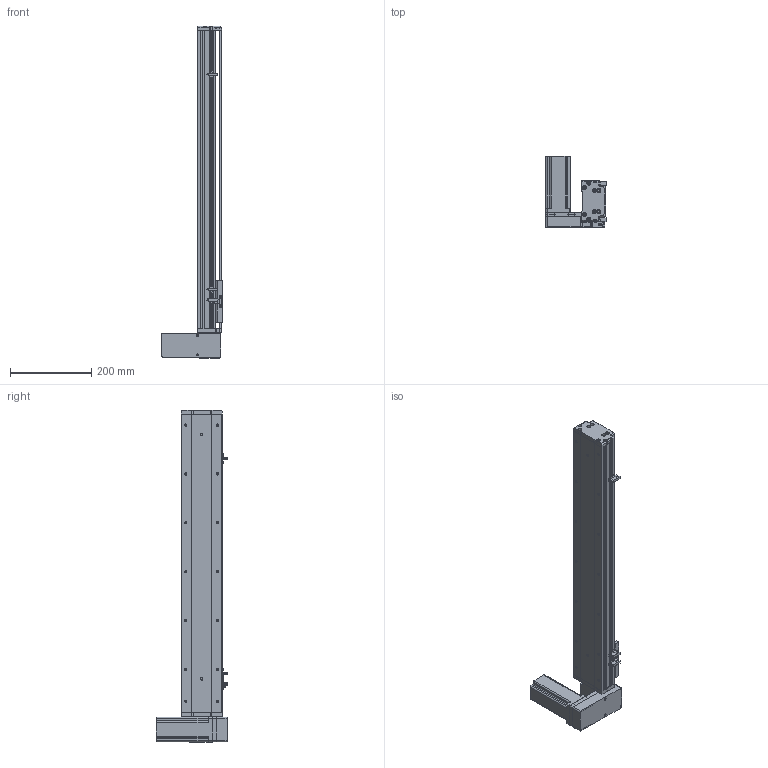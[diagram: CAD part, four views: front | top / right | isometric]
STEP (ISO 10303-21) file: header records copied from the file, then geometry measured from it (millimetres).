
FILE_DESCRIPTION (( 'STEP AP214' ), '1' );
FILE_NAME ('KSD100B-S550-MRD-CM.STEP', '2019-11-11T07:46:34', ( '微软用户' ), ( '微软中国' ), 'SwSTEP 2.0', 'SolidWorks 2014', '' );
FILE_SCHEMA (( 'AUTOMOTIVE_DESIGN' ));
Length unit declared in the file: millimetre
Products named in the file (12): 悵誘欶奻狟殏; 100宽马达安装板连板上下折丝杆同步带; 台达ECMA－C20604AS伺服电机; U倰嫖萇EEㄜSX672; 覜茼え100遵圉猾敕; 100宽防尘板550行程-同步带; 100宽马达安装板同步带右; 100宽同步带安装板半封闭; 100宽马达安装板同步带; 100遵傷啣肮祭湍; 100宽底板半封闭同步带550行程; KSD100B-S550-MRD-CM
Assembly tree (13 placements, depth 2):
  KSD100B-S550-MRD-CM
    100宽底板半封闭同步带550行程
    100遵傷啣肮祭湍
    100宽马达安装板同步带
    100宽同步带安装板半封闭
    100宽马达安装板同步带右
    100宽防尘板550行程-同步带
    覜茼え100遵圉猾敕
    U倰嫖萇EEㄜSX672  x3
    台达ECMA－C20604AS伺服电机
    100宽马达安装板连板上下折丝杆同步带
    悵誘欶奻狟殏
Bounding box: 148 x 174.7 x 815 mm (x, y, z)
Volume: 2100875.8 mm3; surface area: 671827.7 mm2
Topology: 14 solids, 14 shells, 1351 faces, 3786 edges, 2427 vertices
Faces by surface type: cylinder 665, plane 579, cone 107
Entity records: 47119 total; most frequent: CARTESIAN_POINT 8866, DIRECTION 6530, ORIENTED_EDGE 6264, EDGE_CURVE 3132, AXIS2_PLACEMENT_3D 2373, VERTEX_POINT 2051, VECTOR 1784, LINE 1784
